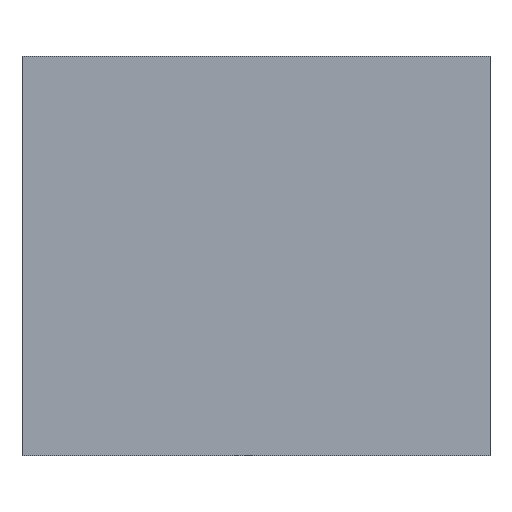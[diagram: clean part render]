
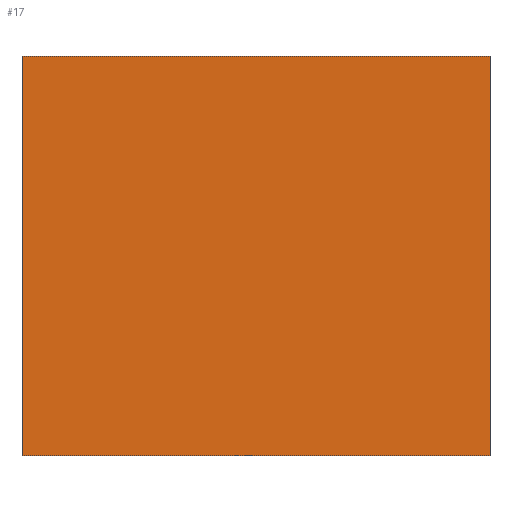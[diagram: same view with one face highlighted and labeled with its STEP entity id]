
A CAD part, left-side view. The second image highlights one B-rep face of the part: STEP entity #17.
In plain terms, the highlighted planar face has unit normal (-1, 0, 0).
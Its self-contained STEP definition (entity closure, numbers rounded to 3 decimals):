
#17 = ADVANCED_FACE('',(#18),#32,.F.);
#18 = FACE_BOUND('',#19,.F.);
#19 = EDGE_LOOP('',(#20,#55,#83,#111));
#20 = ORIENTED_EDGE('',*,*,#21,.F.);
#21 = EDGE_CURVE('',#22,#24,#26,.T.);
#22 = VERTEX_POINT('',#23);
#23 = CARTESIAN_POINT('',(-25.6,20.2,-8.2));
#24 = VERTEX_POINT('',#25);
#25 = CARTESIAN_POINT('',(-25.6,20.2,15.7));
#26 = SURFACE_CURVE('',#27,(#31,#43),.PCURVE_S1.);
#27 = LINE('',#28,#29);
#28 = CARTESIAN_POINT('',(-25.6,20.2,-8.2));
#29 = VECTOR('',#30,1.);
#30 = DIRECTION('',(0.,0.,1.));
#31 = PCURVE('',#32,#37);
#32 = PLANE('',#33);
#33 = AXIS2_PLACEMENT_3D('',#34,#35,#36);
#34 = CARTESIAN_POINT('',(-25.6,20.2,-8.2));
#35 = DIRECTION('',(1.,0.,0.));
#36 = DIRECTION('',(0.,0.,1.));
#37 = DEFINITIONAL_REPRESENTATION('',(#38),#42);
#38 = LINE('',#39,#40);
#39 = CARTESIAN_POINT('',(0.,0.));
#40 = VECTOR('',#41,1.);
#41 = DIRECTION('',(1.,0.));
#42 = ( GEOMETRIC_REPRESENTATION_CONTEXT(2) 
PARAMETRIC_REPRESENTATION_CONTEXT() REPRESENTATION_CONTEXT('2D SPACE',''
  ) );
#43 = PCURVE('',#44,#49);
#44 = PLANE('',#45);
#45 = AXIS2_PLACEMENT_3D('',#46,#47,#48);
#46 = CARTESIAN_POINT('',(-25.6,20.2,-8.2));
#47 = DIRECTION('',(0.,1.,0.));
#48 = DIRECTION('',(0.,0.,1.));
#49 = DEFINITIONAL_REPRESENTATION('',(#50),#54);
#50 = LINE('',#51,#52);
#51 = CARTESIAN_POINT('',(0.,0.));
#52 = VECTOR('',#53,1.);
#53 = DIRECTION('',(1.,0.));
#54 = ( GEOMETRIC_REPRESENTATION_CONTEXT(2) 
PARAMETRIC_REPRESENTATION_CONTEXT() REPRESENTATION_CONTEXT('2D SPACE',''
  ) );
#55 = ORIENTED_EDGE('',*,*,#56,.T.);
#56 = EDGE_CURVE('',#22,#57,#59,.T.);
#57 = VERTEX_POINT('',#58);
#58 = CARTESIAN_POINT('',(-25.6,48.2,-8.2));
#59 = SURFACE_CURVE('',#60,(#64,#71),.PCURVE_S1.);
#60 = LINE('',#61,#62);
#61 = CARTESIAN_POINT('',(-25.6,20.2,-8.2));
#62 = VECTOR('',#63,1.);
#63 = DIRECTION('',(0.,1.,0.));
#64 = PCURVE('',#32,#65);
#65 = DEFINITIONAL_REPRESENTATION('',(#66),#70);
#66 = LINE('',#67,#68);
#67 = CARTESIAN_POINT('',(0.,0.));
#68 = VECTOR('',#69,1.);
#69 = DIRECTION('',(0.,-1.));
#70 = ( GEOMETRIC_REPRESENTATION_CONTEXT(2) 
PARAMETRIC_REPRESENTATION_CONTEXT() REPRESENTATION_CONTEXT('2D SPACE',''
  ) );
#71 = PCURVE('',#72,#77);
#72 = PLANE('',#73);
#73 = AXIS2_PLACEMENT_3D('',#74,#75,#76);
#74 = CARTESIAN_POINT('',(-25.6,20.2,-8.2));
#75 = DIRECTION('',(0.,0.,1.));
#76 = DIRECTION('',(1.,0.,0.));
#77 = DEFINITIONAL_REPRESENTATION('',(#78),#82);
#78 = LINE('',#79,#80);
#79 = CARTESIAN_POINT('',(0.,0.));
#80 = VECTOR('',#81,1.);
#81 = DIRECTION('',(0.,1.));
#82 = ( GEOMETRIC_REPRESENTATION_CONTEXT(2) 
PARAMETRIC_REPRESENTATION_CONTEXT() REPRESENTATION_CONTEXT('2D SPACE',''
  ) );
#83 = ORIENTED_EDGE('',*,*,#84,.T.);
#84 = EDGE_CURVE('',#57,#85,#87,.T.);
#85 = VERTEX_POINT('',#86);
#86 = CARTESIAN_POINT('',(-25.6,48.2,15.7));
#87 = SURFACE_CURVE('',#88,(#92,#99),.PCURVE_S1.);
#88 = LINE('',#89,#90);
#89 = CARTESIAN_POINT('',(-25.6,48.2,-8.2));
#90 = VECTOR('',#91,1.);
#91 = DIRECTION('',(0.,0.,1.));
#92 = PCURVE('',#32,#93);
#93 = DEFINITIONAL_REPRESENTATION('',(#94),#98);
#94 = LINE('',#95,#96);
#95 = CARTESIAN_POINT('',(0.,-28.));
#96 = VECTOR('',#97,1.);
#97 = DIRECTION('',(1.,0.));
#98 = ( GEOMETRIC_REPRESENTATION_CONTEXT(2) 
PARAMETRIC_REPRESENTATION_CONTEXT() REPRESENTATION_CONTEXT('2D SPACE',''
  ) );
#99 = PCURVE('',#100,#105);
#100 = PLANE('',#101);
#101 = AXIS2_PLACEMENT_3D('',#102,#103,#104);
#102 = CARTESIAN_POINT('',(-25.6,48.2,-8.2));
#103 = DIRECTION('',(0.,1.,0.));
#104 = DIRECTION('',(0.,0.,1.));
#105 = DEFINITIONAL_REPRESENTATION('',(#106),#110);
#106 = LINE('',#107,#108);
#107 = CARTESIAN_POINT('',(0.,0.));
#108 = VECTOR('',#109,1.);
#109 = DIRECTION('',(1.,0.));
#110 = ( GEOMETRIC_REPRESENTATION_CONTEXT(2) 
PARAMETRIC_REPRESENTATION_CONTEXT() REPRESENTATION_CONTEXT('2D SPACE',''
  ) );
#111 = ORIENTED_EDGE('',*,*,#112,.F.);
#112 = EDGE_CURVE('',#24,#85,#113,.T.);
#113 = SURFACE_CURVE('',#114,(#118,#125),.PCURVE_S1.);
#114 = LINE('',#115,#116);
#115 = CARTESIAN_POINT('',(-25.6,20.2,15.7));
#116 = VECTOR('',#117,1.);
#117 = DIRECTION('',(0.,1.,0.));
#118 = PCURVE('',#32,#119);
#119 = DEFINITIONAL_REPRESENTATION('',(#120),#124);
#120 = LINE('',#121,#122);
#121 = CARTESIAN_POINT('',(23.9,0.));
#122 = VECTOR('',#123,1.);
#123 = DIRECTION('',(0.,-1.));
#124 = ( GEOMETRIC_REPRESENTATION_CONTEXT(2) 
PARAMETRIC_REPRESENTATION_CONTEXT() REPRESENTATION_CONTEXT('2D SPACE',''
  ) );
#125 = PCURVE('',#126,#131);
#126 = PLANE('',#127);
#127 = AXIS2_PLACEMENT_3D('',#128,#129,#130);
#128 = CARTESIAN_POINT('',(-25.6,20.2,15.7));
#129 = DIRECTION('',(0.,0.,1.));
#130 = DIRECTION('',(1.,0.,0.));
#131 = DEFINITIONAL_REPRESENTATION('',(#132),#136);
#132 = LINE('',#133,#134);
#133 = CARTESIAN_POINT('',(0.,0.));
#134 = VECTOR('',#135,1.);
#135 = DIRECTION('',(0.,1.));
#136 = ( GEOMETRIC_REPRESENTATION_CONTEXT(2) 
PARAMETRIC_REPRESENTATION_CONTEXT() REPRESENTATION_CONTEXT('2D SPACE',''
  ) );
